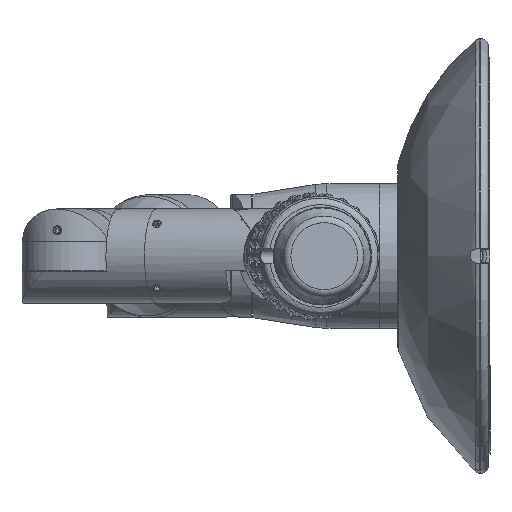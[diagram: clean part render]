
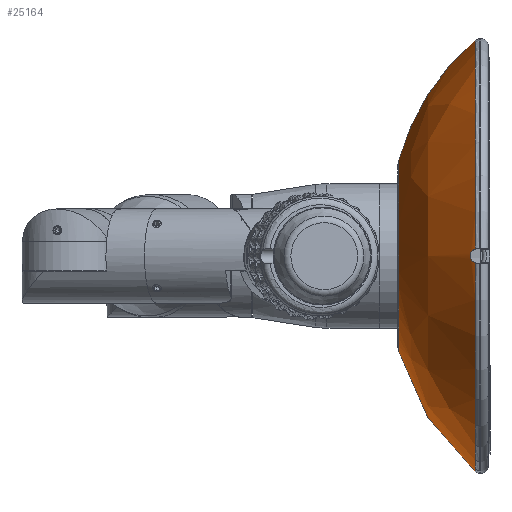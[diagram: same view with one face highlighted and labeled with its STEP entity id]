
A CAD part, left-side view. The second image highlights one B-rep face of the part: STEP entity #25164.
In plain terms, the highlighted free-form (B-spline) face has degree [2, 2] with [3, 9] control points.
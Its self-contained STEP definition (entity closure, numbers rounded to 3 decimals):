
#300=(
BOUNDED_SURFACE()
B_SPLINE_SURFACE(2,2,((#56478,#56479,#56480,#56481,#56482,#56483,#56484,
#56485,#56486),(#56487,#56488,#56489,#56490,#56491,#56492,#56493,#56494,
#56495),(#56496,#56497,#56498,#56499,#56500,#56501,#56502,#56503,#56504)),
 .UNSPECIFIED.,.F.,.T.,.F.)
B_SPLINE_SURFACE_WITH_KNOTS((3,3),(3,2,2,2,3),(-1.308,-0.701),
(-3.142,-1.571,0.,1.571,3.142),
 .UNSPECIFIED.)
GEOMETRIC_REPRESENTATION_ITEM()
RATIONAL_B_SPLINE_SURFACE(((1.,0.707,1.,0.707,1.,
0.707,1.,0.707,1.),(0.954,0.675,
0.954,0.675,0.954,0.675,
0.954,0.675,0.954),(1.,0.707,
1.,0.707,1.,0.707,1.,0.707,1.)))
REPRESENTATION_ITEM('')
SURFACE()
);
#1309=B_SPLINE_CURVE_WITH_KNOTS('',3,(#56283,#56284,#56285,#56286,#56287,
#56288,#56289,#56290,#56291,#56292),.UNSPECIFIED.,.F.,.F.,(4,2,2,2,4),(-0.275,
-0.214,-0.125,-0.06,0.),
 .UNSPECIFIED.);
#1310=B_SPLINE_CURVE_WITH_KNOTS('',3,(#56294,#56295,#56296,#56297,#56298,
#56299,#56300,#56301,#56302,#56303),.UNSPECIFIED.,.F.,.F.,(4,2,2,2,4),(-1.354,
-1.318,-1.249,-1.164,-1.076),
 .UNSPECIFIED.);
#3483=FACE_OUTER_BOUND('',#5081,.T.);
#5081=EDGE_LOOP('',(#22940,#22941,#22942,#22943,#22944,#22945,#22946));
#9587=CIRCLE('',#28021,59.528);
#9588=CIRCLE('',#28022,59.528);
#9609=CIRCLE('',#28057,26.33);
#9612=CIRCLE('',#28060,65.778);
#12030=VERTEX_POINT('',#56281);
#12031=VERTEX_POINT('',#56282);
#12032=VERTEX_POINT('',#56293);
#12050=VERTEX_POINT('',#56397);
#12074=VERTEX_POINT('',#56473);
#15651=EDGE_CURVE('',#12030,#12031,#1309,.F.);
#15652=EDGE_CURVE('',#12030,#12032,#1310,.T.);
#15674=EDGE_CURVE('',#12050,#12032,#9587,.F.);
#15675=EDGE_CURVE('',#12031,#12050,#9588,.F.);
#15712=EDGE_CURVE('',#12074,#12074,#9609,.T.);
#15715=EDGE_CURVE('',#12050,#12074,#9612,.T.);
#22940=ORIENTED_EDGE('',*,*,#15675,.T.);
#22941=ORIENTED_EDGE('',*,*,#15715,.T.);
#22942=ORIENTED_EDGE('',*,*,#15712,.F.);
#22943=ORIENTED_EDGE('',*,*,#15715,.F.);
#22944=ORIENTED_EDGE('',*,*,#15674,.T.);
#22945=ORIENTED_EDGE('',*,*,#15652,.F.);
#22946=ORIENTED_EDGE('',*,*,#15651,.T.);
#25164=ADVANCED_FACE('',(#3483),#300,.F.);
#28021=AXIS2_PLACEMENT_3D('',#56398,#34775,#34776);
#28022=AXIS2_PLACEMENT_3D('',#56399,#34777,#34778);
#28057=AXIS2_PLACEMENT_3D('',#56474,#34863,#34864);
#28060=AXIS2_PLACEMENT_3D('',#56505,#34869,#34870);
#34775=DIRECTION('center_axis',(0.,0.,-1.));
#34776=DIRECTION('ref_axis',(-1.,0.,0.));
#34777=DIRECTION('center_axis',(0.,0.,-1.));
#34778=DIRECTION('ref_axis',(-1.,0.,0.));
#34863=DIRECTION('center_axis',(0.,0.,1.));
#34864=DIRECTION('ref_axis',(1.,0.,0.));
#34869=DIRECTION('center_axis',(0.,-1.,0.));
#34870=DIRECTION('ref_axis',(1.,0.,0.));
#56281=CARTESIAN_POINT('',(0.,-58.281,5.));
#56282=CARTESIAN_POINT('',(1.918,-59.497,3.565));
#56283=CARTESIAN_POINT('Ctrl Pts',(1.918,-59.497,3.565));
#56284=CARTESIAN_POINT('Ctrl Pts',(1.867,-59.351,3.741));
#56285=CARTESIAN_POINT('Ctrl Pts',(1.791,-59.208,3.911));
#56286=CARTESIAN_POINT('Ctrl Pts',(1.545,-58.88,4.299));
#56287=CARTESIAN_POINT('Ctrl Pts',(1.356,-58.714,4.494));
#56288=CARTESIAN_POINT('Ctrl Pts',(0.971,-58.487,
4.76));
#56289=CARTESIAN_POINT('Ctrl Pts',(0.785,-58.408,
4.852));
#56290=CARTESIAN_POINT('Ctrl Pts',(0.395,-58.306,
4.97));
#56291=CARTESIAN_POINT('Ctrl Pts',(0.199,-58.281,
5.));
#56292=CARTESIAN_POINT('Ctrl Pts',(0.,-58.281,
5.));
#56293=CARTESIAN_POINT('',(-1.918,-59.497,3.565));
#56294=CARTESIAN_POINT('Ctrl Pts',(0.,-58.281,
5.));
#56295=CARTESIAN_POINT('Ctrl Pts',(-0.122,-58.281,
5.));
#56296=CARTESIAN_POINT('Ctrl Pts',(-0.243,-58.29,
4.989));
#56297=CARTESIAN_POINT('Ctrl Pts',(-0.584,-58.344,
4.926));
#56298=CARTESIAN_POINT('Ctrl Pts',(-0.79,-58.41,
4.849));
#56299=CARTESIAN_POINT('Ctrl Pts',(-1.2,-58.606,
4.621));
#56300=CARTESIAN_POINT('Ctrl Pts',(-1.399,-58.75,
4.453));
#56301=CARTESIAN_POINT('Ctrl Pts',(-1.728,-59.098,
4.042));
#56302=CARTESIAN_POINT('Ctrl Pts',(-1.847,-59.295,3.807));
#56303=CARTESIAN_POINT('Ctrl Pts',(-1.918,-59.497,3.565));
#56397=CARTESIAN_POINT('',(59.528,0.,3.565));
#56398=CARTESIAN_POINT('Origin',(0.,0.,3.565));
#56399=CARTESIAN_POINT('Origin',(0.,0.,3.565));
#56473=CARTESIAN_POINT('',(26.33,0.,24.658));
#56474=CARTESIAN_POINT('Origin',(0.,0.,24.658));
#56478=CARTESIAN_POINT('Ctrl Pts',(26.33,0.,24.658));
#56479=CARTESIAN_POINT('Ctrl Pts',(26.33,-26.33,24.658));
#56480=CARTESIAN_POINT('Ctrl Pts',(0.,-26.33,
24.658));
#56481=CARTESIAN_POINT('Ctrl Pts',(-26.33,-26.33,
24.658));
#56482=CARTESIAN_POINT('Ctrl Pts',(-26.33,0.,24.658));
#56483=CARTESIAN_POINT('Ctrl Pts',(-26.33,26.33,24.658));
#56484=CARTESIAN_POINT('Ctrl Pts',(0.,26.33,
24.658));
#56485=CARTESIAN_POINT('Ctrl Pts',(26.33,26.33,24.658));
#56486=CARTESIAN_POINT('Ctrl Pts',(26.33,0.,24.658));
#56487=CARTESIAN_POINT('Ctrl Pts',(46.233,0.,19.312));
#56488=CARTESIAN_POINT('Ctrl Pts',(46.233,-46.233,19.312));
#56489=CARTESIAN_POINT('Ctrl Pts',(0.,-46.233,
19.312));
#56490=CARTESIAN_POINT('Ctrl Pts',(-46.233,-46.233,
19.312));
#56491=CARTESIAN_POINT('Ctrl Pts',(-46.233,0.,19.312));
#56492=CARTESIAN_POINT('Ctrl Pts',(-46.233,46.233,19.312));
#56493=CARTESIAN_POINT('Ctrl Pts',(0.,46.233,
19.312));
#56494=CARTESIAN_POINT('Ctrl Pts',(46.233,46.233,19.312));
#56495=CARTESIAN_POINT('Ctrl Pts',(46.233,0.,19.312));
#56496=CARTESIAN_POINT('Ctrl Pts',(59.528,0.,3.565));
#56497=CARTESIAN_POINT('Ctrl Pts',(59.528,-59.528,3.565));
#56498=CARTESIAN_POINT('Ctrl Pts',(0.,-59.528,
3.565));
#56499=CARTESIAN_POINT('Ctrl Pts',(-59.528,-59.528,
3.565));
#56500=CARTESIAN_POINT('Ctrl Pts',(-59.528,0.,3.565));
#56501=CARTESIAN_POINT('Ctrl Pts',(-59.528,59.528,3.565));
#56502=CARTESIAN_POINT('Ctrl Pts',(0.,59.528,
3.565));
#56503=CARTESIAN_POINT('Ctrl Pts',(59.528,59.528,3.565));
#56504=CARTESIAN_POINT('Ctrl Pts',(59.528,0.,3.565));
#56505=CARTESIAN_POINT('Origin',(9.268,0.,
-38.869));
